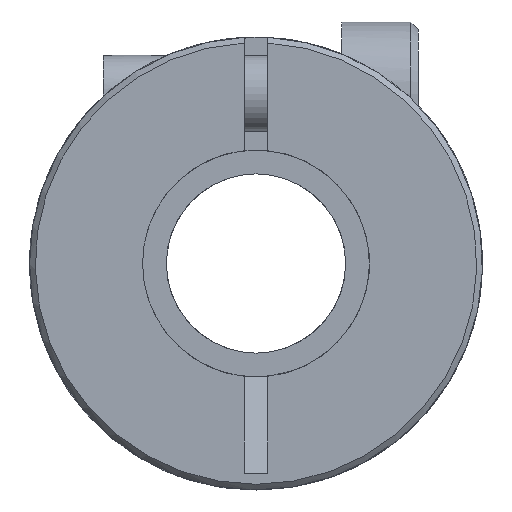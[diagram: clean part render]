
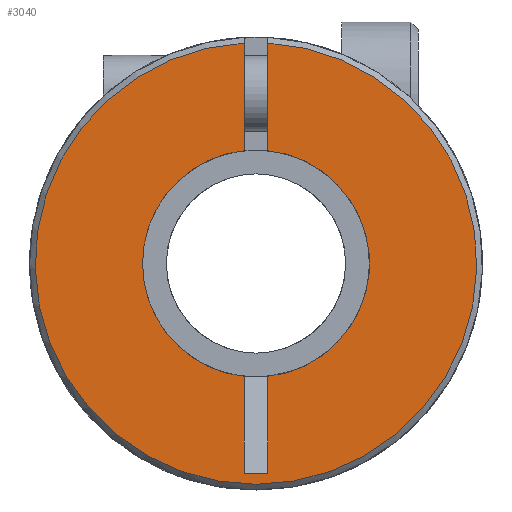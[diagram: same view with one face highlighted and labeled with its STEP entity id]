
A CAD part, front view. The second image highlights one B-rep face of the part: STEP entity #3040.
In plain terms, the highlighted planar face has unit normal (0, -1, 0).
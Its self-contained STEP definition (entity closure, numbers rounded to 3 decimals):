
#1=DIRECTION('',(0.,0.,-1.));
#2=VECTOR('',#1,2.256);
#3=CARTESIAN_POINT('',(-0.25,-9.8,4.623));
#4=LINE('',#3,#2);
#5=CARTESIAN_POINT('',(0.,-9.8,0.));
#6=DIRECTION('',(0.,1.,0.));
#7=DIRECTION('',(-1.,0.,0.));
#8=AXIS2_PLACEMENT_3D('',#5,#6,#7);
#10=CARTESIAN_POINT('',(0.,-9.8,0.));
#11=DIRECTION('',(0.,1.,0.));
#12=DIRECTION('',(-0.105,0.,-0.994));
#13=AXIS2_PLACEMENT_3D('',#10,#11,#12);
#15=DIRECTION('',(0.,0.,-1.));
#16=VECTOR('',#15,2.033);
#17=CARTESIAN_POINT('',(-0.25,-9.8,-2.367));
#18=LINE('',#17,#16);
#19=DIRECTION('',(1.,0.,0.));
#20=VECTOR('',#19,0.5);
#21=CARTESIAN_POINT('',(-0.25,-9.8,-4.4));
#22=LINE('',#21,#20);
#23=DIRECTION('',(0.,0.,-1.));
#24=VECTOR('',#23,2.033);
#25=CARTESIAN_POINT('',(0.25,-9.8,-2.367));
#26=LINE('',#25,#24);
#27=DIRECTION('',(0.,0.,-1.));
#28=VECTOR('',#27,2.256);
#29=CARTESIAN_POINT('',(0.25,-9.8,4.623));
#30=LINE('',#29,#28);
#54=CARTESIAN_POINT('',(0.,-9.8,0.));
#55=DIRECTION('',(0.,1.,0.));
#56=DIRECTION('',(0.105,0.,0.994));
#57=AXIS2_PLACEMENT_3D('',#54,#55,#56);
#2531=CARTESIAN_POINT('',(0.,-9.8,0.));
#2532=DIRECTION('',(0.,-1.,0.));
#2533=DIRECTION('',(-0.054,0.,0.999));
#2534=AXIS2_PLACEMENT_3D('',#2531,#2532,#2533);
#2689=CARTESIAN_POINT('',(-2.38,-9.8,0.));
#2690=VERTEX_POINT('',#2689);
#2772=CARTESIAN_POINT('',(-0.25,-9.8,-4.4));
#2774=VERTEX_POINT('',#2772);
#2776=CARTESIAN_POINT('',(0.25,-9.8,-4.4));
#2778=VERTEX_POINT('',#2776);
#2827=CARTESIAN_POINT('',(-0.25,-9.8,4.623));
#2828=CARTESIAN_POINT('',(-0.25,-9.8,2.367));
#2829=VERTEX_POINT('',#2827);
#2830=VERTEX_POINT('',#2828);
#2831=CARTESIAN_POINT('',(-0.25,-9.8,-2.367));
#2832=VERTEX_POINT('',#2831);
#2833=CARTESIAN_POINT('',(0.25,-9.8,4.623));
#2834=CARTESIAN_POINT('',(0.25,-9.8,2.367));
#2835=VERTEX_POINT('',#2833);
#2836=VERTEX_POINT('',#2834);
#2837=CARTESIAN_POINT('',(0.25,-9.8,-2.367));
#2838=VERTEX_POINT('',#2837);
#3015=CARTESIAN_POINT('',(0.,-9.8,0.));
#3016=DIRECTION('',(0.,1.,0.));
#3017=DIRECTION('',(1.,0.,0.));
#3018=AXIS2_PLACEMENT_3D('',#3015,#3016,#3017);
#3019=PLANE('',#3018);
#3021=ORIENTED_EDGE('',*,*,#3020,.T.);
#3023=ORIENTED_EDGE('',*,*,#3022,.F.);
#3025=ORIENTED_EDGE('',*,*,#3024,.F.);
#3027=ORIENTED_EDGE('',*,*,#3026,.T.);
#3029=ORIENTED_EDGE('',*,*,#3028,.T.);
#3031=ORIENTED_EDGE('',*,*,#3030,.F.);
#3033=ORIENTED_EDGE('',*,*,#3032,.F.);
#3035=ORIENTED_EDGE('',*,*,#3034,.F.);
#3037=ORIENTED_EDGE('',*,*,#3036,.F.);
#3038=EDGE_LOOP('',(#3021,#3023,#3025,#3027,#3029,#3031,#3033,#3035,#3037));
#3039=FACE_OUTER_BOUND('',#3038,.F.);
#3040=ADVANCED_FACE('',(#3039),#3019,.F.);
#9=CIRCLE('',#8,2.38);
#14=CIRCLE('',#13,2.38);
#58=CIRCLE('',#57,2.38);
#2535=CIRCLE('',#2534,4.63);
#3020=EDGE_CURVE('',#2829,#2830,#4,.T.);
#3022=EDGE_CURVE('',#2690,#2830,#9,.T.);
#3024=EDGE_CURVE('',#2832,#2690,#14,.T.);
#3026=EDGE_CURVE('',#2832,#2774,#18,.T.);
#3028=EDGE_CURVE('',#2774,#2778,#22,.T.);
#3030=EDGE_CURVE('',#2838,#2778,#26,.T.);
#3032=EDGE_CURVE('',#2836,#2838,#58,.T.);
#3034=EDGE_CURVE('',#2835,#2836,#30,.T.);
#3036=EDGE_CURVE('',#2829,#2835,#2535,.T.);
